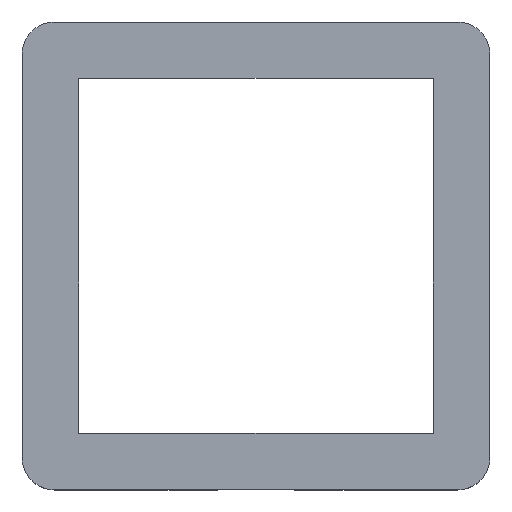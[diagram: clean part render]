
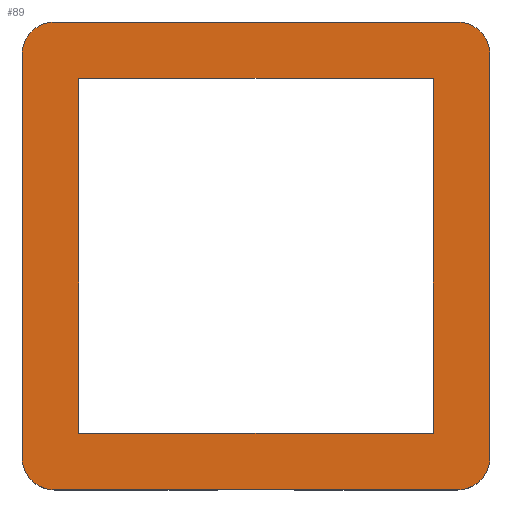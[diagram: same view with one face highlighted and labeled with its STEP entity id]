
A CAD part, top view. The second image highlights one B-rep face of the part: STEP entity #89.
In plain terms, the highlighted planar face has unit normal (0, 0, 1).
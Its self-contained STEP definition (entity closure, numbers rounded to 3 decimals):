
#21 = EDGE_CURVE('',#22,#24,#26,.T.);
#22 = VERTEX_POINT('',#23);
#23 = CARTESIAN_POINT('',(-29.,-25.,15.6));
#24 = VERTEX_POINT('',#25);
#25 = CARTESIAN_POINT('',(-29.,25.,15.6));
#26 = LINE('',#27,#28);
#27 = CARTESIAN_POINT('',(-29.,-29.,15.6));
#28 = VECTOR('',#29,1.);
#29 = DIRECTION('',(-0.,1.,0.));
#89 = ADVANCED_FACE('',(#90,#151),#185,.T.);
#90 = FACE_BOUND('',#91,.T.);
#91 = EDGE_LOOP('',(#92,#93,#102,#110,#119,#127,#136,#144));
#92 = ORIENTED_EDGE('',*,*,#21,.F.);
#93 = ORIENTED_EDGE('',*,*,#94,.T.);
#94 = EDGE_CURVE('',#22,#95,#97,.T.);
#95 = VERTEX_POINT('',#96);
#96 = CARTESIAN_POINT('',(-25.,-29.,15.6));
#97 = CIRCLE('',#98,4.);
#98 = AXIS2_PLACEMENT_3D('',#99,#100,#101);
#99 = CARTESIAN_POINT('',(-25.,-25.,15.6));
#100 = DIRECTION('',(0.,0.,1.));
#101 = DIRECTION('',(0.,-1.,0.));
#102 = ORIENTED_EDGE('',*,*,#103,.T.);
#103 = EDGE_CURVE('',#95,#104,#106,.T.);
#104 = VERTEX_POINT('',#105);
#105 = CARTESIAN_POINT('',(25.,-29.,15.6));
#106 = LINE('',#107,#108);
#107 = CARTESIAN_POINT('',(-29.,-29.,15.6));
#108 = VECTOR('',#109,1.);
#109 = DIRECTION('',(1.,0.,-0.));
#110 = ORIENTED_EDGE('',*,*,#111,.F.);
#111 = EDGE_CURVE('',#112,#104,#114,.T.);
#112 = VERTEX_POINT('',#113);
#113 = CARTESIAN_POINT('',(29.,-25.,15.6));
#114 = CIRCLE('',#115,4.);
#115 = AXIS2_PLACEMENT_3D('',#116,#117,#118);
#116 = CARTESIAN_POINT('',(25.,-25.,15.6));
#117 = DIRECTION('',(-0.,-0.,-1.));
#118 = DIRECTION('',(0.,-1.,0.));
#119 = ORIENTED_EDGE('',*,*,#120,.T.);
#120 = EDGE_CURVE('',#112,#121,#123,.T.);
#121 = VERTEX_POINT('',#122);
#122 = CARTESIAN_POINT('',(29.,25.,15.6));
#123 = LINE('',#124,#125);
#124 = CARTESIAN_POINT('',(29.,-29.,15.6));
#125 = VECTOR('',#126,1.);
#126 = DIRECTION('',(-0.,1.,0.));
#127 = ORIENTED_EDGE('',*,*,#128,.T.);
#128 = EDGE_CURVE('',#121,#129,#131,.T.);
#129 = VERTEX_POINT('',#130);
#130 = CARTESIAN_POINT('',(25.,29.,15.6));
#131 = CIRCLE('',#132,4.);
#132 = AXIS2_PLACEMENT_3D('',#133,#134,#135);
#133 = CARTESIAN_POINT('',(25.,25.,15.6));
#134 = DIRECTION('',(0.,0.,1.));
#135 = DIRECTION('',(0.,-1.,0.));
#136 = ORIENTED_EDGE('',*,*,#137,.F.);
#137 = EDGE_CURVE('',#138,#129,#140,.T.);
#138 = VERTEX_POINT('',#139);
#139 = CARTESIAN_POINT('',(-25.,29.,15.6));
#140 = LINE('',#141,#142);
#141 = CARTESIAN_POINT('',(-29.,29.,15.6));
#142 = VECTOR('',#143,1.);
#143 = DIRECTION('',(1.,0.,-0.));
#144 = ORIENTED_EDGE('',*,*,#145,.F.);
#145 = EDGE_CURVE('',#24,#138,#146,.T.);
#146 = CIRCLE('',#147,4.);
#147 = AXIS2_PLACEMENT_3D('',#148,#149,#150);
#148 = CARTESIAN_POINT('',(-25.,25.,15.6));
#149 = DIRECTION('',(-0.,-0.,-1.));
#150 = DIRECTION('',(0.,-1.,0.));
#151 = FACE_BOUND('',#152,.T.);
#152 = EDGE_LOOP('',(#153,#163,#171,#179));
#153 = ORIENTED_EDGE('',*,*,#154,.T.);
#154 = EDGE_CURVE('',#155,#157,#159,.T.);
#155 = VERTEX_POINT('',#156);
#156 = CARTESIAN_POINT('',(22.,-22.,15.6));
#157 = VERTEX_POINT('',#158);
#158 = CARTESIAN_POINT('',(-22.,-22.,15.6));
#159 = LINE('',#160,#161);
#160 = CARTESIAN_POINT('',(-25.5,-22.,15.6));
#161 = VECTOR('',#162,1.);
#162 = DIRECTION('',(-1.,-0.,0.));
#163 = ORIENTED_EDGE('',*,*,#164,.T.);
#164 = EDGE_CURVE('',#157,#165,#167,.T.);
#165 = VERTEX_POINT('',#166);
#166 = CARTESIAN_POINT('',(-22.,22.,15.6));
#167 = LINE('',#168,#169);
#168 = CARTESIAN_POINT('',(-22.,-25.5,15.6));
#169 = VECTOR('',#170,1.);
#170 = DIRECTION('',(-0.,1.,0.));
#171 = ORIENTED_EDGE('',*,*,#172,.F.);
#172 = EDGE_CURVE('',#173,#165,#175,.T.);
#173 = VERTEX_POINT('',#174);
#174 = CARTESIAN_POINT('',(22.,22.,15.6));
#175 = LINE('',#176,#177);
#176 = CARTESIAN_POINT('',(-25.5,22.,15.6));
#177 = VECTOR('',#178,1.);
#178 = DIRECTION('',(-1.,-0.,0.));
#179 = ORIENTED_EDGE('',*,*,#180,.F.);
#180 = EDGE_CURVE('',#155,#173,#181,.T.);
#181 = LINE('',#182,#183);
#182 = CARTESIAN_POINT('',(22.,-25.5,15.6));
#183 = VECTOR('',#184,1.);
#184 = DIRECTION('',(-0.,1.,0.));
#185 = PLANE('',#186);
#186 = AXIS2_PLACEMENT_3D('',#187,#188,#189);
#187 = CARTESIAN_POINT('',(-29.,-29.,15.6));
#188 = DIRECTION('',(0.,0.,1.));
#189 = DIRECTION('',(1.,0.,-0.));
